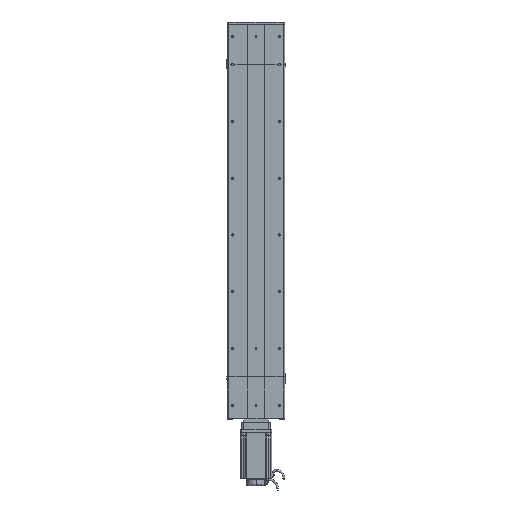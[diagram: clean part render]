
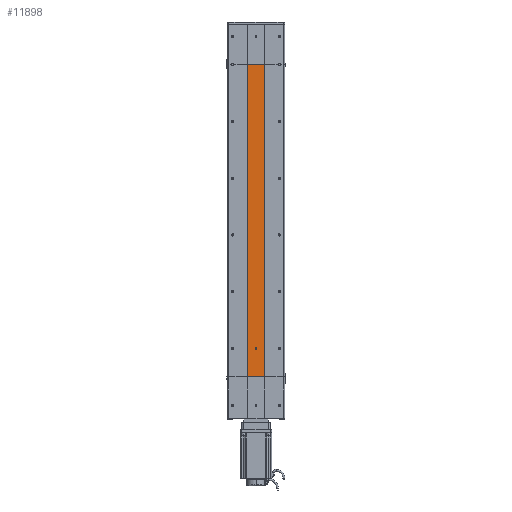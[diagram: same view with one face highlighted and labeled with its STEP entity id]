
A CAD part, front view. The second image highlights one B-rep face of the part: STEP entity #11898.
In plain terms, the highlighted planar face has unit normal (0, -1, 0).
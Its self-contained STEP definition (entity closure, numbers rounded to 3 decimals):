
#6721 = EDGE_CURVE ( 'NONE', #16885, #16430, #29758, .T. ) ;
#7268 = VERTEX_POINT ( 'NONE', #30471 ) ;
#8265 = EDGE_CURVE ( 'NONE', #8300, #7268, #32145, .T. ) ;
#8300 = VERTEX_POINT ( 'NONE', #32141 ) ;
#10216 = DIRECTION ( 'NONE',  ( 0., 0., 1. ) ) ;
#10218 = VECTOR ( 'NONE', #10216, 1000. ) ;
#10569 = CARTESIAN_POINT ( 'NONE',  ( -30., -32.5, 0. ) ) ;
#10570 = LINE ( 'NONE', #10569, #10218 ) ;
#11394 = VERTEX_POINT ( 'NONE', #43338 ) ;
#11405 = EDGE_CURVE ( 'NONE', #11584, #11394, #43279, .T. ) ;
#11584 = VERTEX_POINT ( 'NONE', #43571 ) ;
#11720 = ORIENTED_EDGE ( 'NONE', *, *, #12020, .F. ) ;
#11800 = ORIENTED_EDGE ( 'NONE', *, *, #11405, .F. ) ;
#11803 = ORIENTED_EDGE ( 'NONE', *, *, #12131, .F. ) ;
#11810 = EDGE_CURVE ( 'NONE', #11584, #8300, #43810, .T. ) ;
#11839 = ORIENTED_EDGE ( 'NONE', *, *, #6721, .F. ) ;
#11898 = ADVANCED_FACE ( 'NONE', ( #43967, #43966 ), #43991, .F. ) ;
#11995 = ORIENTED_EDGE ( 'NONE', *, *, #11810, .T. ) ;
#12020 = EDGE_CURVE ( 'NONE', #16430, #16885, #44050, .T. ) ;
#12023 = ORIENTED_EDGE ( 'NONE', *, *, #8265, .T. ) ;
#12092 = EDGE_LOOP ( 'NONE', ( #11720, #11839 ) ) ;
#12098 = EDGE_LOOP ( 'NONE', ( #12023, #11803, #11800, #11995 ) ) ;
#12131 = EDGE_CURVE ( 'NONE', #11394, #7268, #10570, .T. ) ;
#16430 = VERTEX_POINT ( 'NONE', #56156 ) ;
#16885 = VERTEX_POINT ( 'NONE', #57819 ) ;
#29712 = CARTESIAN_POINT ( 'NONE',  ( 0., -32.5, 100. ) ) ;
#29758 = CIRCLE ( 'NONE', #29811, 3. ) ;
#29805 = DIRECTION ( 'NONE',  ( 0., 0., -1. ) ) ;
#29806 = DIRECTION ( 'NONE',  ( 0., -1., 0. ) ) ;
#29811 = AXIS2_PLACEMENT_3D ( 'NONE', #29712, #29806, #29805 ) ;
#30471 = CARTESIAN_POINT ( 'NONE',  ( -30., -32.5, 1100. ) ) ;
#32141 = CARTESIAN_POINT ( 'NONE',  ( 30., -32.5, 1100. ) ) ;
#32142 = DIRECTION ( 'NONE',  ( -1., 0., 0. ) ) ;
#32143 = VECTOR ( 'NONE', #32142, 1000. ) ;
#32144 = CARTESIAN_POINT ( 'NONE',  ( -30., -32.5, 1100. ) ) ;
#32145 = LINE ( 'NONE', #32144, #32143 ) ;
#43279 = LINE ( 'NONE', #43280, #43420 ) ;
#43280 = CARTESIAN_POINT ( 'NONE',  ( -30., -32.5, 0. ) ) ;
#43338 = CARTESIAN_POINT ( 'NONE',  ( -30., -32.5, 0. ) ) ;
#43419 = DIRECTION ( 'NONE',  ( -1., 0., 0. ) ) ;
#43420 = VECTOR ( 'NONE', #43419, 1000. ) ;
#43571 = CARTESIAN_POINT ( 'NONE',  ( 30., -32.5, 0. ) ) ;
#43806 = DIRECTION ( 'NONE',  ( 0., 0., 1. ) ) ;
#43807 = VECTOR ( 'NONE', #43806, 1000. ) ;
#43809 = CARTESIAN_POINT ( 'NONE',  ( 30., -32.5, 0. ) ) ;
#43810 = LINE ( 'NONE', #43809, #43807 ) ;
#43894 = CARTESIAN_POINT ( 'NONE',  ( -30., -32.5, 0. ) ) ;
#43898 = AXIS2_PLACEMENT_3D ( 'NONE', #43894, #43987, #43986 ) ;
#43966 = FACE_OUTER_BOUND ( 'NONE', #12098, .T. ) ;
#43967 = FACE_BOUND ( 'NONE', #12092, .T. ) ;
#43986 = DIRECTION ( 'NONE',  ( 0., 0., 1. ) ) ;
#43987 = DIRECTION ( 'NONE',  ( 0., 1., 0. ) ) ;
#43991 = PLANE ( 'NONE',  #43898 ) ;
#44008 = AXIS2_PLACEMENT_3D ( 'NONE', #44064, #44090, #44089 ) ;
#44050 = CIRCLE ( 'NONE', #44008, 3. ) ;
#44064 = CARTESIAN_POINT ( 'NONE',  ( 0., -32.5, 100. ) ) ;
#44089 = DIRECTION ( 'NONE',  ( 0., 0., -1. ) ) ;
#44090 = DIRECTION ( 'NONE',  ( 0., -1., 0. ) ) ;
#56156 = CARTESIAN_POINT ( 'NONE',  ( 0., -32.5, 97. ) ) ;
#57819 = CARTESIAN_POINT ( 'NONE',  ( 0., -32.5, 103. ) ) ;
